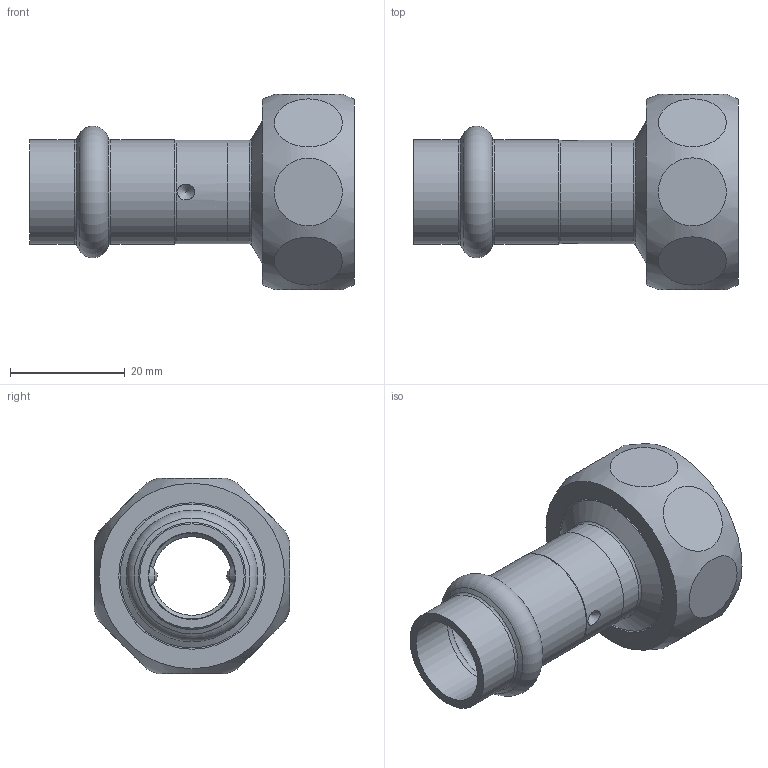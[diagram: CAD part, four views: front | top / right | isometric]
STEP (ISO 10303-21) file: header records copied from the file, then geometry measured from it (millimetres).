
FILE_DESCRIPTION((''),'2;1');
FILE_NAME('G:\Nirosan-Schmiedefeld\Technics\CAD\001 Serie 9.000\015\173601578(1).stp','2018-10-16T11:08:42',('herberg'),(''),'Autodesk Inventor 2009','Autodesk Inventor 2009','');
FILE_SCHEMA(('AUTOMOTIVE_DESIGN { 1 0 10303 214 1 1 1 1 }'));
Length unit declared in the file: millimetre
Products named in the file (4): 173601578(1); 69HM1518P(0); G_3601578(0); MAM1578(0)
Assembly tree (3 placements, depth 2):
  173601578(1)
    69HM1518P(0)
    G_3601578(0)
    MAM1578(0)
Bounding box: 56.5 x 34 x 34 mm (x, y, z)
Volume: 12495.2 mm3; surface area: 10775.2 mm2
Topology: 3 solids, 3 shells, 56 faces, 109 edges, 70 vertices
Faces by surface type: plane 18, cone 14, cylinder 11, bspline 9, sphere 2, torus 2
Full cylindrical faces by diameter (mm): 13.7 x1, 15 x2, 15.15 x2, 18 x2, 18.15 x2, 25 x1, 27.3 x1
Entity records: 1758 total; most frequent: CARTESIAN_POINT 703, DIRECTION 214, ORIENTED_EDGE 122, EDGE_LOOP 110, AXIS2_PLACEMENT_3D 107, EDGE_CURVE 61, VERTEX_POINT 59, FACE_OUTER_BOUND 56
